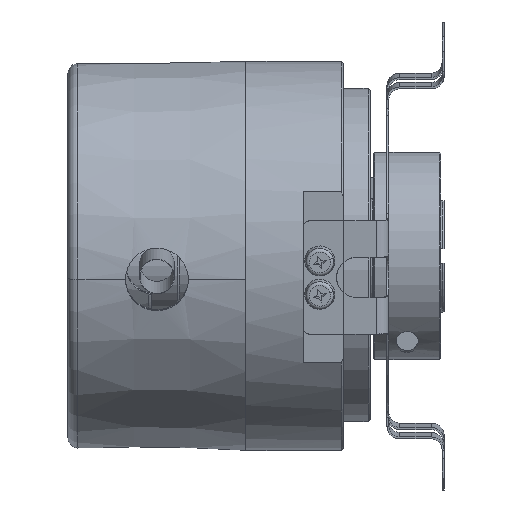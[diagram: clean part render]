
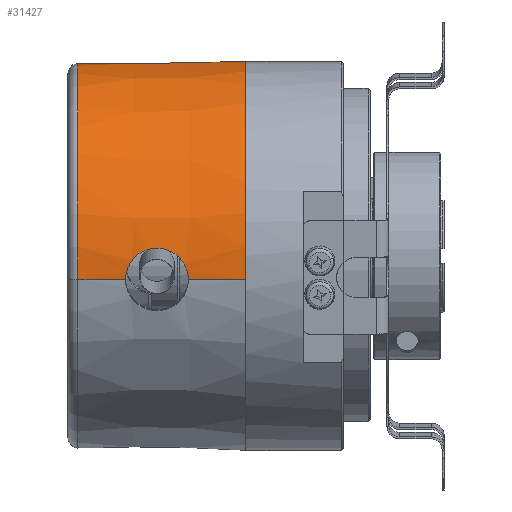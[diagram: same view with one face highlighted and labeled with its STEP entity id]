
A CAD part, front view. The second image highlights one B-rep face of the part: STEP entity #31427.
In plain terms, the highlighted conical face has half-angle 0.75 degrees and reference radius 29 mm.
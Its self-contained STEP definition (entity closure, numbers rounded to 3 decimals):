
#7029 = VERTEX_POINT ( 'NONE', #13340 ) ;
#7046 = VERTEX_POINT ( 'NONE', #13357 ) ;
#7062 = VERTEX_POINT ( 'NONE', #13373 ) ;
#7067 = VERTEX_POINT ( 'NONE', #13378 ) ;
#7084 = VERTEX_POINT ( 'NONE', #13395 ) ;
#7090 = VERTEX_POINT ( 'NONE', #13401 ) ;
#7158 = VERTEX_POINT ( 'NONE', #13551 ) ;
#7779 = EDGE_LOOP ( 'NONE', ( #13496, #13546, #13541, #13526, #13508, #13482, #13485 ) ) ;
#13340 = CARTESIAN_POINT ( 'NONE',  ( -1.069, -28.672, -3.521 ) ) ;
#13357 = CARTESIAN_POINT ( 'NONE',  ( -17.52, 21.923, 18.479 ) ) ;
#13373 = CARTESIAN_POINT ( 'NONE',  ( 7.5, 22.36, 18.467 ) ) ;
#13378 = CARTESIAN_POINT ( 'NONE',  ( -5.75, -28.802, 1.18 ) ) ;
#13395 = CARTESIAN_POINT ( 'NONE',  ( -17.52, -28.459, -3.494 ) ) ;
#13401 = CARTESIAN_POINT ( 'NONE',  ( 7.5, -28.784, -3.534 ) ) ;
#13482 = ORIENTED_EDGE ( 'NONE', *, *, #39753, .T. ) ;
#13485 = ORIENTED_EDGE ( 'NONE', *, *, #39807, .T. ) ;
#13496 = ORIENTED_EDGE ( 'NONE', *, *, #40127, .T. ) ;
#13508 = ORIENTED_EDGE ( 'NONE', *, *, #39761, .T. ) ;
#13526 = ORIENTED_EDGE ( 'NONE', *, *, #39751, .T. ) ;
#13541 = ORIENTED_EDGE ( 'NONE', *, *, #40102, .T. ) ;
#13546 = ORIENTED_EDGE ( 'NONE', *, *, #39821, .T. ) ;
#13551 = CARTESIAN_POINT ( 'NONE',  ( -10.431, -28.551, -3.506 ) ) ;
#21172 = FACE_OUTER_BOUND ( 'NONE', #7779, .T. ) ;
#21180 = AXIS2_PLACEMENT_3D ( 'NONE', #21915, #21916, #21917 ) ;
#21915 = CARTESIAN_POINT ( 'NONE',  ( 7.5, 0., 0. ) ) ;
#21916 = DIRECTION ( 'NONE',  ( 1., 0., 0. ) ) ;
#21917 = DIRECTION ( 'NONE',  ( 0., -0.993, -0.122 ) ) ;
#23164 = CIRCLE ( 'NONE', #35311, 28.672 ) ;
#23329 = CIRCLE ( 'NONE', #29600, 29. ) ;
#29600 = AXIS2_PLACEMENT_3D ( 'NONE', #32957, #32959, #32961 ) ;
#29609 = VECTOR ( 'NONE', #33005, 1000. ) ;
#29658 = VECTOR ( 'NONE', #33395, 1000. ) ;
#31427 = ADVANCED_FACE ( 'NONE', ( #21172 ), #33313, .T. ) ;
#32920 = CARTESIAN_POINT ( 'NONE',  ( -5.75, -28.802, 1.18 ) ) ;
#32921 = CARTESIAN_POINT ( 'NONE',  ( -5.443, -28.806, 1.179 ) ) ;
#32923 = CARTESIAN_POINT ( 'NONE',  ( -5.139, -28.812, 1.148 ) ) ;
#32925 = CARTESIAN_POINT ( 'NONE',  ( -4.537, -28.824, 1.026 ) ) ;
#32927 = CARTESIAN_POINT ( 'NONE',  ( -4.239, -28.831, 0.934 ) ) ;
#32929 = CARTESIAN_POINT ( 'NONE',  ( -3.675, -28.846, 0.697 ) ) ;
#32930 = CARTESIAN_POINT ( 'NONE',  ( -3.405, -28.853, 0.551 ) ) ;
#32932 = CARTESIAN_POINT ( 'NONE',  ( -2.892, -28.864, 0.204 ) ) ;
#32934 = CARTESIAN_POINT ( 'NONE',  ( -2.656, -28.868, 0.008 ) ) ;
#32936 = CARTESIAN_POINT ( 'NONE',  ( -2.225, -28.87, -0.426 ) ) ;
#32937 = CARTESIAN_POINT ( 'NONE',  ( -2.028, -28.869, -0.668 ) ) ;
#32939 = CARTESIAN_POINT ( 'NONE',  ( -1.688, -28.857, -1.18 ) ) ;
#32941 = CARTESIAN_POINT ( 'NONE',  ( -1.544, -28.847, -1.449 ) ) ;
#32943 = CARTESIAN_POINT ( 'NONE',  ( -1.309, -28.816, -2.015 ) ) ;
#32944 = CARTESIAN_POINT ( 'NONE',  ( -1.219, -28.795, -2.313 ) ) ;
#32946 = CARTESIAN_POINT ( 'NONE',  ( -1.099, -28.742, -2.912 ) ) ;
#32948 = CARTESIAN_POINT ( 'NONE',  ( -1.069, -28.71, -3.214 ) ) ;
#32950 = CARTESIAN_POINT ( 'NONE',  ( -1.069, -28.672, -3.521 ) ) ;
#32957 = CARTESIAN_POINT ( 'NONE',  ( 7.5, 0., 0. ) ) ;
#32959 = DIRECTION ( 'NONE',  ( -1., 0., 0. ) ) ;
#32961 = DIRECTION ( 'NONE',  ( 0., 0.993, 0.122 ) ) ;
#33001 = LINE ( 'NONE', #33003, #29609 ) ;
#33003 = CARTESIAN_POINT ( 'NONE',  ( 7.5, -28.784, -3.534 ) ) ;
#33005 = DIRECTION ( 'NONE',  ( 1., -0.013, -0.002 ) ) ;
#33288 = CARTESIAN_POINT ( 'NONE',  ( 7.5, 22.36, 18.467 ) ) ;
#33305 = CARTESIAN_POINT ( 'NONE',  ( 6.5, 22.343, 18.468 ) ) ;
#33307 = CARTESIAN_POINT ( 'NONE',  ( 5.5, 22.325, 18.468 ) ) ;
#33308 = CARTESIAN_POINT ( 'NONE',  ( 4.5, 22.308, 18.469 ) ) ;
#33310 = CARTESIAN_POINT ( 'NONE',  ( 0.501, 22.238, 18.47 ) ) ;
#33312 = CARTESIAN_POINT ( 'NONE',  ( -3.498, 22.169, 18.472 ) ) ;
#33313 = CONICAL_SURFACE ( 'NONE', #21180, 29., 0.013 ) ;
#33314 = CARTESIAN_POINT ( 'NONE',  ( -7.498, 22.099, 18.474 ) ) ;
#33315 = CARTESIAN_POINT ( 'NONE',  ( -10.838, 22.04, 18.476 ) ) ;
#33317 = CARTESIAN_POINT ( 'NONE',  ( -14.179, 21.982, 18.477 ) ) ;
#33319 = CARTESIAN_POINT ( 'NONE',  ( -17.52, 21.923, 18.479 ) ) ;
#33392 = LINE ( 'NONE', #33394, #29658 ) ;
#33394 = CARTESIAN_POINT ( 'NONE',  ( 7.5, -28.784, -3.534 ) ) ;
#33395 = DIRECTION ( 'NONE',  ( 1., -0.013, -0.002 ) ) ;
#35311 = AXIS2_PLACEMENT_3D ( 'NONE', #36100, #36104, #36105 ) ;
#35990 = CARTESIAN_POINT ( 'NONE',  ( -10.431, -28.551, -3.506 ) ) ;
#35991 = CARTESIAN_POINT ( 'NONE',  ( -10.431, -28.588, -3.203 ) ) ;
#35992 = CARTESIAN_POINT ( 'NONE',  ( -10.401, -28.621, -2.896 ) ) ;
#35993 = CARTESIAN_POINT ( 'NONE',  ( -10.28, -28.677, -2.295 ) ) ;
#35994 = CARTESIAN_POINT ( 'NONE',  ( -10.192, -28.7, -2.004 ) ) ;
#35995 = CARTESIAN_POINT ( 'NONE',  ( -9.958, -28.737, -1.439 ) ) ;
#35996 = CARTESIAN_POINT ( 'NONE',  ( -9.811, -28.751, -1.164 ) ) ;
#35997 = CARTESIAN_POINT ( 'NONE',  ( -9.471, -28.771, -0.655 ) ) ;
#35998 = CARTESIAN_POINT ( 'NONE',  ( -9.278, -28.778, -0.419 ) ) ;
#35999 = CARTESIAN_POINT ( 'NONE',  ( -8.844, -28.787, 0.018 ) ) ;
#36000 = CARTESIAN_POINT ( 'NONE',  ( -8.605, -28.789, 0.215 ) ) ;
#36001 = CARTESIAN_POINT ( 'NONE',  ( -8.099, -28.791, 0.556 ) ) ;
#36002 = CARTESIAN_POINT ( 'NONE',  ( -7.828, -28.791, 0.702 ) ) ;
#36003 = CARTESIAN_POINT ( 'NONE',  ( -7.258, -28.792, 0.94 ) ) ;
#36004 = CARTESIAN_POINT ( 'NONE',  ( -6.966, -28.792, 1.029 ) ) ;
#36005 = CARTESIAN_POINT ( 'NONE',  ( -6.367, -28.796, 1.149 ) ) ;
#36006 = CARTESIAN_POINT ( 'NONE',  ( -6.057, -28.798, 1.18 ) ) ;
#36007 = CARTESIAN_POINT ( 'NONE',  ( -5.75, -28.802, 1.18 ) ) ;
#36100 = CARTESIAN_POINT ( 'NONE',  ( -17.52, 0., 0. ) ) ;
#36104 = DIRECTION ( 'NONE',  ( 1., 0., 0. ) ) ;
#36105 = DIRECTION ( 'NONE',  ( 0., 0.993, 0.122 ) ) ;
#39418 = B_SPLINE_CURVE_WITH_KNOTS ( 'NONE', 3,
 ( #35990, #35991, #35992, #35993, #35994, #35995, #35996, #35997, #35998, #35999, #36000, #36001, #36002, #36003, #36004, #36005, #36006, #36007 ),
 .UNSPECIFIED., .F., .F.,
 ( 4, 2, 2, 2, 2, 2, 2, 2, 4 ),
 ( 0.004, 0.005, 0.006, 0.007, 0.008, 0.009, 0.01, 0.01, 0.011 ),
 .UNSPECIFIED. ) ;
#39751 = EDGE_CURVE ( 'NONE', #7067, #7029, #40886, .T. ) ;
#39753 = EDGE_CURVE ( 'NONE', #7090, #7062, #23329, .T. ) ;
#39761 = EDGE_CURVE ( 'NONE', #7029, #7090, #33001, .T. ) ;
#39807 = EDGE_CURVE ( 'NONE', #7062, #7046, #40904, .T. ) ;
#39821 = EDGE_CURVE ( 'NONE', #7084, #7158, #33392, .T. ) ;
#40102 = EDGE_CURVE ( 'NONE', #7158, #7067, #39418, .T. ) ;
#40127 = EDGE_CURVE ( 'NONE', #7046, #7084, #23164, .T. ) ;
#40886 = B_SPLINE_CURVE_WITH_KNOTS ( 'NONE', 3,
 ( #32920, #32921, #32923, #32925, #32927, #32929, #32930, #32932, #32934, #32936, #32937, #32939, #32941, #32943, #32944, #32946, #32948, #32950 ),
 .UNSPECIFIED., .F., .F.,
 ( 4, 2, 2, 2, 2, 2, 2, 2, 4 ),
 ( 0.011, 0.012, 0.013, 0.014, 0.015, 0.016, 0.017, 0.018, 0.019 ),
 .UNSPECIFIED. ) ;
#40904 = B_SPLINE_CURVE_WITH_KNOTS ( 'NONE', 3,
 ( #33288, #33305, #33307, #33308, #33310, #33312, #33314, #33315, #33317, #33319 ),
 .UNSPECIFIED., .F., .F.,
 ( 4, 3, 3, 4 ),
 ( 0., 0.003, 0.015, 0.025 ),
 .UNSPECIFIED. ) ;
